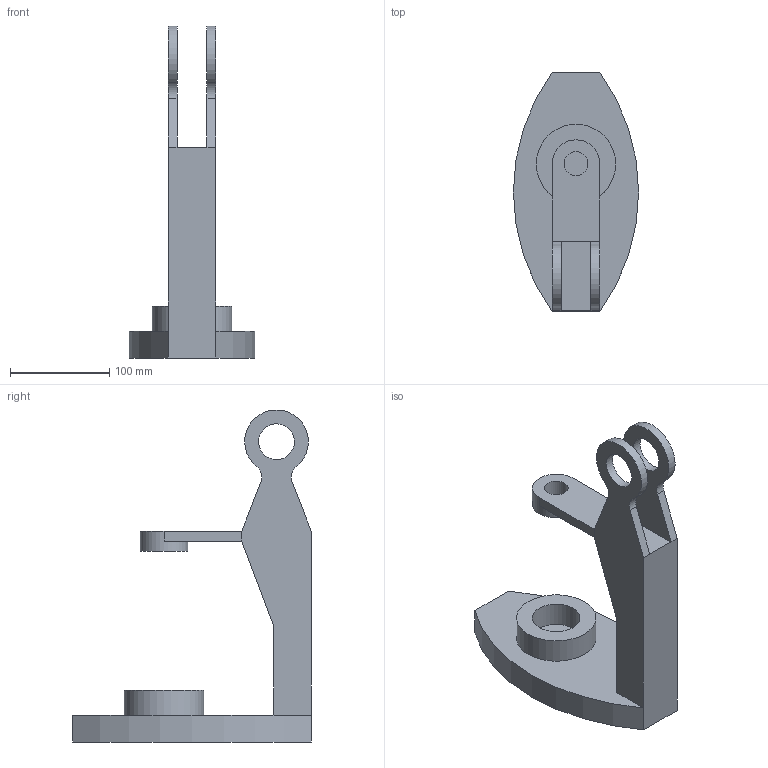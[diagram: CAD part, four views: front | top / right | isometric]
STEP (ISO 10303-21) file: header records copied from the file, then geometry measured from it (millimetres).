
FILE_DESCRIPTION(('STEP AP242'), '1');
FILE_NAME('栺鳧鍧', '', ('UNSPECIFIED'), ('UNSPECIFIED'), 'C3D Converter', 'C3D Toolkit', '');
FILE_SCHEMA(('AP242_MANAGED_MODEL_BASED_3D_ENGINEERING_MIM_LF { 1 0 10303 442 1 1 4 }'));
Length unit declared in the file: millimetre
Bounding box: 126 x 240 x 333.88 mm (x, y, z)
Volume: 1296313.2 mm3; surface area: 153709.9 mm2
Topology: 2 solids, 2 shells, 42 faces, 95 edges, 61 vertices
Faces by surface type: plane 26, cylinder 16
Full cylindrical faces by diameter (mm): 10 x2, 24 x1, 36 x2, 48 x2, 80 x1
Entity records: 1194 total; most frequent: DIRECTION 206, CARTESIAN_POINT 191, ORIENTED_EDGE 174, EDGE_CURVE 87, AXIS2_PLACEMENT_3D 76, VERTEX_POINT 61, EDGE_LOOP 60, LINE 54
